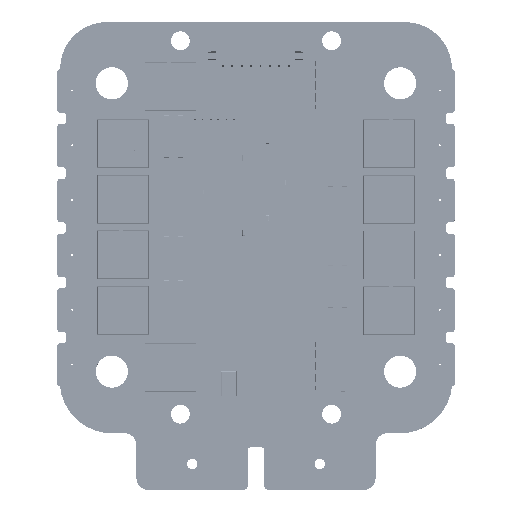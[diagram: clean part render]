
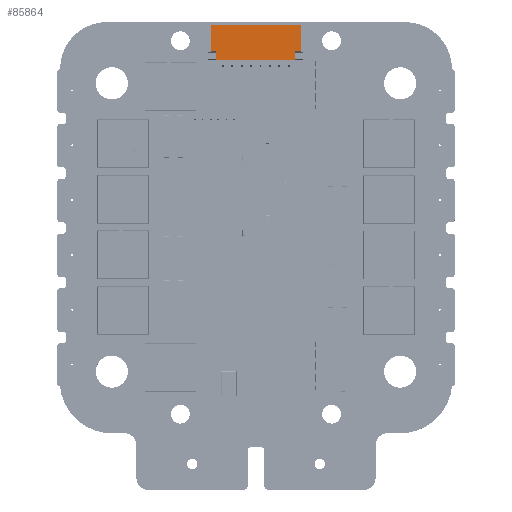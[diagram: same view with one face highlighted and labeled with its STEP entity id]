
A CAD part, top view. The second image highlights one B-rep face of the part: STEP entity #85864.
In plain terms, the highlighted planar face has unit normal (0, 0, 1) as drawn and (0, 1, 0) by its records, which use the part's own axes.
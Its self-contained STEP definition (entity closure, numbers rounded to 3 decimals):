
#85105 = VERTEX_POINT('',#85106);
#85106 = CARTESIAN_POINT('',(4.2,1.45,-3.69));
#85114 = VERTEX_POINT('',#85115);
#85115 = CARTESIAN_POINT('',(-4.2,1.45,-3.69));
#85121 = EDGE_CURVE('',#85114,#85105,#85122,.T.);
#85122 = LINE('',#85123,#85124);
#85123 = CARTESIAN_POINT('',(0.5,1.45,-3.69));
#85124 = VECTOR('',#85125,1.);
#85125 = DIRECTION('',(1.,-0.,-0.));
#85344 = VERTEX_POINT('',#85345);
#85345 = CARTESIAN_POINT('',(4.765,1.45,0.));
#85351 = EDGE_CURVE('',#85344,#85352,#85354,.T.);
#85352 = VERTEX_POINT('',#85353);
#85353 = CARTESIAN_POINT('',(-4.765,1.45,0.));
#85354 = LINE('',#85355,#85356);
#85355 = CARTESIAN_POINT('',(-3.765,1.45,0.));
#85356 = VECTOR('',#85357,1.);
#85357 = DIRECTION('',(-1.,-0.,-0.));
#85845 = VERTEX_POINT('',#85846);
#85846 = CARTESIAN_POINT('',(4.765,1.45,-2.82));
#85852 = EDGE_CURVE('',#85845,#85344,#85853,.T.);
#85853 = LINE('',#85854,#85855);
#85854 = CARTESIAN_POINT('',(4.765,1.45,-4.25));
#85855 = VECTOR('',#85856,1.);
#85856 = DIRECTION('',(0.,0.,1.));
#85864 = ADVANCED_FACE('',(#85865),#85906,.T.);
#85865 = FACE_BOUND('',#85866,.T.);
#85866 = EDGE_LOOP('',(#85867,#85875,#85881,#85882,#85890,#85898,#85904,
    #85905));
#85867 = ORIENTED_EDGE('',*,*,#85868,.F.);
#85868 = EDGE_CURVE('',#85869,#85845,#85871,.T.);
#85869 = VERTEX_POINT('',#85870);
#85870 = CARTESIAN_POINT('',(4.2,1.45,-2.82));
#85871 = LINE('',#85872,#85873);
#85872 = CARTESIAN_POINT('',(2.128,1.45,-2.82));
#85873 = VECTOR('',#85874,1.);
#85874 = DIRECTION('',(1.,-0.,-0.));
#85875 = ORIENTED_EDGE('',*,*,#85876,.T.);
#85876 = EDGE_CURVE('',#85869,#85105,#85877,.T.);
#85877 = LINE('',#85878,#85879);
#85878 = CARTESIAN_POINT('',(4.2,1.45,-2.82));
#85879 = VECTOR('',#85880,1.);
#85880 = DIRECTION('',(0.,0.,-1.));
#85881 = ORIENTED_EDGE('',*,*,#85121,.F.);
#85882 = ORIENTED_EDGE('',*,*,#85883,.F.);
#85883 = EDGE_CURVE('',#85884,#85114,#85886,.T.);
#85884 = VERTEX_POINT('',#85885);
#85885 = CARTESIAN_POINT('',(-4.2,1.45,-2.82));
#85886 = LINE('',#85887,#85888);
#85887 = CARTESIAN_POINT('',(-4.2,1.45,-2.82));
#85888 = VECTOR('',#85889,1.);
#85889 = DIRECTION('',(0.,0.,-1.));
#85890 = ORIENTED_EDGE('',*,*,#85891,.T.);
#85891 = EDGE_CURVE('',#85884,#85892,#85894,.T.);
#85892 = VERTEX_POINT('',#85893);
#85893 = CARTESIAN_POINT('',(-4.765,1.45,-2.82));
#85894 = LINE('',#85895,#85896);
#85895 = CARTESIAN_POINT('',(-2.128,1.45,-2.82));
#85896 = VECTOR('',#85897,1.);
#85897 = DIRECTION('',(-1.,0.,0.));
#85898 = ORIENTED_EDGE('',*,*,#85899,.T.);
#85899 = EDGE_CURVE('',#85892,#85352,#85900,.T.);
#85900 = LINE('',#85901,#85902);
#85901 = CARTESIAN_POINT('',(-4.765,1.45,-4.25));
#85902 = VECTOR('',#85903,1.);
#85903 = DIRECTION('',(0.,0.,1.));
#85904 = ORIENTED_EDGE('',*,*,#85351,.F.);
#85905 = ORIENTED_EDGE('',*,*,#85852,.F.);
#85906 = PLANE('',#85907);
#85907 = AXIS2_PLACEMENT_3D('',#85908,#85909,#85910);
#85908 = CARTESIAN_POINT('',(-3.765,1.45,-4.25));
#85909 = DIRECTION('',(0.,1.,0.));
#85910 = DIRECTION('',(0.,-0.,1.));
